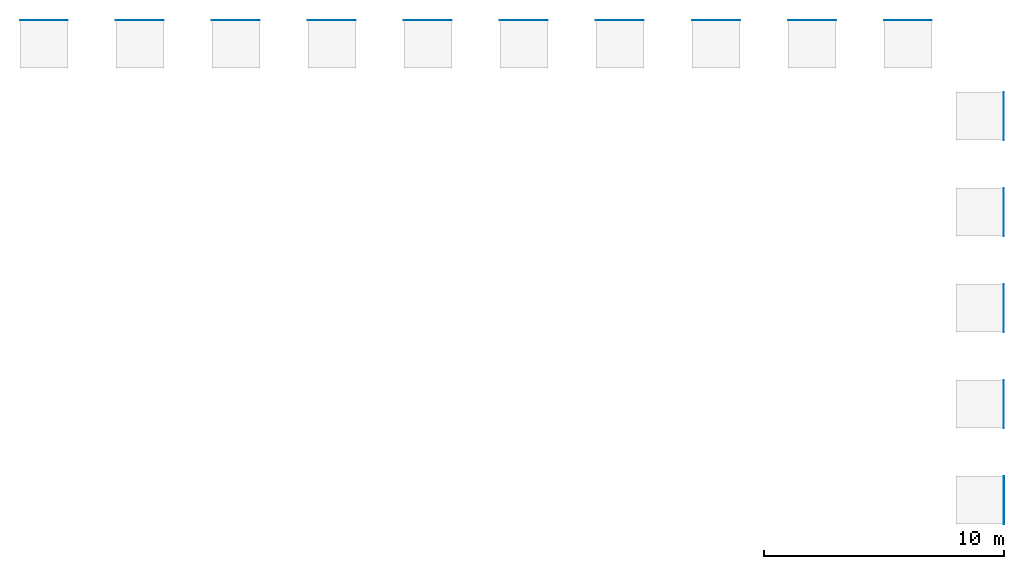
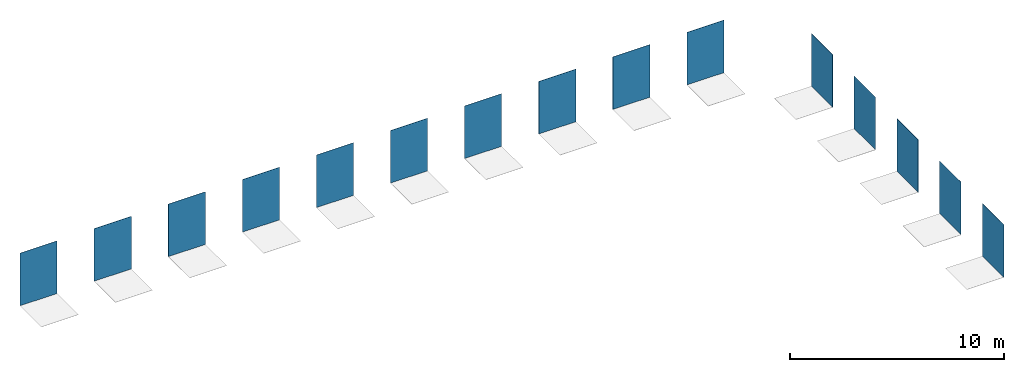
# One storey, part 1 of 2: 15 walls.
"""IFC2X3 building model written with IfcOpenShell, lengths in millimetres."""

import ifcopenshell
import ifcopenshell.guid

model = None  # the IFC model being written
_history = None  # IfcOwnerHistory: only IFC2X3 demands one
_inside = {}  # id of a spatial element -> (the spatial element, [elements in it])
_under = {}  # id of a project, library or spatial element -> (it, [spatial elements below it])
_declared = {}  # id of a project -> (the project, [libraries it declares])
_typed = {}  # id of a type object -> (the type object, [elements of that type])
_made_of = {}  # id of a material, layer set ... -> (it, [elements and type objects made of it])


def new_model(schema):
    """Start an empty IFC model of exactly this schema.

    Asked for "IFC4X3", IfcOpenShell would pick the latest addendum, in which some entities
    have other attributes; the version numbers below select the first issue.
    IFC2X3 requires an IfcOwnerHistory on every rooted entity: one is made here for all.
    """
    global model, _history
    if schema == "IFC4X3":
        model = ifcopenshell.file(schema_version=(4, 3, 0, 0))
    else:
        model = ifcopenshell.file(schema=schema)
    _inside.clear()
    _under.clear()
    _declared.clear()
    _typed.clear()
    _made_of.clear()
    _history = None
    if model.schema == "IFC2X3":
        org = make("IfcOrganization", Name="unknown")
        user = make(
            "IfcPersonAndOrganization",
            ThePerson=make("IfcPerson", FamilyName="unknown"),
            TheOrganization=org,
        )
        app = make(
            "IfcApplication",
            ApplicationDeveloper=org,
            Version="unknown",
            ApplicationFullName="unknown",
            ApplicationIdentifier="unknown",
        )
        _history = make(
            "IfcOwnerHistory",
            OwningUser=user,
            OwningApplication=app,
            ChangeAction="ADDED",
            CreationDate=0,
        )
    return model


def make(cls, **values):
    """One entity of the class cls with the attributes given. An attribute that is None is left unset."""
    return model.create_entity(
        cls, **{name: value for name, value in values.items() if value is not None}
    )


def entity(cls, *values):
    """Any entity or typed value of the class cls, its attributes in the order of the schema. None: left unset."""
    e = model.create_entity(cls)
    for i, value in enumerate(values):
        if value is not None:
            e[i] = value
    return e


def rooted(cls, **values):
    """An entity with a GlobalId (a new one), such as an element, a storey or a relation."""
    return make(cls, GlobalId=ifcopenshell.guid.new(), OwnerHistory=_history, **values)


def si_unit(unit_type, name, prefix=None):
    """IfcSIUnit, for example si_unit("LENGTHUNIT", "METRE", prefix="MILLI")."""
    return make("IfcSIUnit", UnitType=unit_type, Prefix=prefix, Name=name)


def converted_unit(unit_type, name, factor, base, dimensions=None, offset=None):
    """IfcConversionBasedUnit, such as the inch: factor (a typed value) times the base unit."""
    return make(
        "IfcConversionBasedUnit"
        if offset is None
        else "IfcConversionBasedUnitWithOffset",
        ConversionOffset=offset,
        Dimensions=None
        if dimensions is None
        else entity("IfcDimensionalExponents", *dimensions),
        UnitType=unit_type,
        Name=name,
        ConversionFactor=make(
            "IfcMeasureWithUnit", ValueComponent=factor, UnitComponent=base
        ),
    )


def derived_unit(unit_type, elements):
    """IfcDerivedUnit: a product of units, each with its exponent."""
    return make(
        "IfcDerivedUnit",
        Elements=[
            make("IfcDerivedUnitElement", Unit=unit, Exponent=power)
            for unit, power in elements
        ],
        UnitType=unit_type,
    )


def assignment(units):
    """IfcUnitAssignment: the units of a project."""
    return None if units is None else make("IfcUnitAssignment", Units=units)


def point(xyz):
    """IfcCartesianPoint."""
    return None if xyz is None else make("IfcCartesianPoint", Coordinates=xyz)


def direction(xyz):
    """IfcDirection."""
    return None if xyz is None else make("IfcDirection", DirectionRatios=xyz)


def frame(location, z_axis=None, x_axis=None):
    """IfcAxis2Placement3D, a coordinate frame: its origin and axes. An axis left out is left unset."""
    return make(
        "IfcAxis2Placement3D",
        Location=point(location),
        Axis=direction(z_axis),
        RefDirection=direction(x_axis),
    )


def frame_2d(location, x_axis=None):
    """IfcAxis2Placement2D, a coordinate frame in the plane: its origin and x axis."""
    return make(
        "IfcAxis2Placement2D", Location=point(location), RefDirection=direction(x_axis)
    )


def origin():
    """The frame at (0, 0, 0) with its axes left unset."""
    return frame((0.0, 0.0, 0.0))


def place(relative_to, where):
    """IfcLocalPlacement: puts the frame where relative to a parent placement (None: the world)."""
    return make(
        "IfcLocalPlacement", PlacementRelTo=relative_to, RelativePlacement=where
    )


def context(
    kind, dimensions, precision=None, world=None, true_north=None, identifier=None
):
    """IfcGeometricRepresentationContext, for example the 3D "Model" context."""
    return make(
        "IfcGeometricRepresentationContext",
        ContextIdentifier=identifier,
        ContextType=kind,
        CoordinateSpaceDimension=dimensions,
        Precision=precision,
        WorldCoordinateSystem=world,
        TrueNorth=true_north,
    )


def subcontext(parent, identifier, kind, view, scale=None):
    """IfcGeometricRepresentationSubContext, for example "Body" below "Model"."""
    return make(
        "IfcGeometricRepresentationSubContext",
        ContextIdentifier=identifier,
        ContextType=kind,
        ParentContext=parent,
        TargetScale=scale,
        TargetView=view,
    )


def project(units=None, contexts=None):
    """IfcProject with its units and contexts."""
    return rooted(
        "IfcProject",
        Name="project",
        RepresentationContexts=contexts,
        UnitsInContext=assignment(units),
    )


def spatial(cls, under=None, at=None, **own):
    """A site, building, storey or space (cls), placed at a placement, below another one or the project."""
    s = rooted(cls, ObjectPlacement=at, **own)
    if under is not None:
        _under.setdefault(under.id(), (under, []))[1].append(s)
    return s


def profile(cls, at=None, kind="AREA", **sizes):
    """A parametric profile (cls). Its sizes go by their IFC names, for example OverallWidth=200.0."""
    return make(cls, ProfileType=kind, Position=at, **sizes)


def rectangle(**sizes):
    """IfcRectangleProfileDef."""
    return profile("IfcRectangleProfileDef", **sizes)


def extrude(swept, where, along, depth):
    """IfcExtrudedAreaSolid: the profile swept, set in the frame where, extruded along a direction by depth."""
    return make(
        "IfcExtrudedAreaSolid",
        SweptArea=swept,
        Position=where,
        ExtrudedDirection=direction(along),
        Depth=depth,
    )


def shape(context_of_items, identifier, shape_type, items):
    """IfcShapeRepresentation: the items that make up one representation, for example the "Body"."""
    return make(
        "IfcShapeRepresentation",
        ContextOfItems=context_of_items,
        RepresentationIdentifier=identifier,
        RepresentationType=shape_type,
        Items=items,
    )


def material(Name=None, Category=None):
    """IfcMaterial."""
    return make("IfcMaterial", Name=Name, Category=Category)


def layer(
    of_material, thickness, ventilated=None, Name=None, Category=None, Priority=None
):
    """IfcMaterialLayer: one layer of a wall or slab, of a material (None: an air gap)."""
    return make(
        "IfcMaterialLayer",
        Material=of_material,
        LayerThickness=thickness,
        IsVentilated=ventilated,
        Name=Name,
        Category=Category,
        Priority=Priority,
    )


def layer_set(layers, Name=None):
    """IfcMaterialLayerSet."""
    return make("IfcMaterialLayerSet", MaterialLayers=layers, LayerSetName=Name)


def layer_usage(for_layer_set, set_direction, sense, offset, extent=None):
    """IfcMaterialLayerSetUsage: how a layer set lies in its element."""
    return make(
        "IfcMaterialLayerSetUsage",
        ForLayerSet=for_layer_set,
        LayerSetDirection=set_direction,
        DirectionSense=sense,
        OffsetFromReferenceLine=offset,
        ReferenceExtent=extent,
    )


def made_of(thing, what):
    """Note that an element or type object is made of a material, layer set ...; save() writes the relation."""
    if what is not None:
        _made_of.setdefault(what.id(), (what, []))[1].append(thing)
    return thing


def type_object(cls, material=None, **own):
    """A type object (cls), such as IfcWallType, which elements share."""
    return made_of(rooted(cls, **own), material)


def element(
    cls,
    number,
    at=None,
    inside=None,
    cuts=None,
    type_object=None,
    material=None,
    context=None,
    identifier="Body",
    shape_type=None,
    held_by="IfcProductDefinitionShape",
    body=None,
    shapes=None,
    **own,
):
    """One element of the class cls, such as IfcWall. Its Tag is "e" and its number.

    at: its placement. inside: the storey or other place that contains it. cuts: it is an
    opening in that element (IfcRelVoidsElement). A single representation is given by context,
    identifier, shape_type and body (its items); several are given by shapes. held_by: the class
    of the entity that holds the representations. save() writes the other relations.
    """
    e = rooted(cls, Tag="e%d" % number, ObjectPlacement=at, **own)
    if body is not None:
        shapes = [shape(context, identifier, shape_type, body)]
    if shapes is not None:
        e.Representation = make(held_by, Representations=shapes)
    if inside is not None:
        _inside.setdefault(inside.id(), (inside, []))[1].append(e)
    if cuts is not None:
        rooted(
            "IfcRelVoidsElement", RelatingBuildingElement=cuts, RelatedOpeningElement=e
        )
    if type_object is not None:
        _typed.setdefault(type_object.id(), (type_object, []))[1].append(e)
    return made_of(e, material)


def aggregate(whole, parts):
    """IfcRelAggregates: a whole, such as a stair, and the parts it consists of."""
    return rooted("IfcRelAggregates", RelatingObject=whole, RelatedObjects=parts)


def save(model, path):
    """Write the relations noted so far, then the file.

    IfcRelAggregates (storeys below a building ...), IfcRelContainedInSpatialStructure (elements
    in a storey), IfcRelDefinesByType, IfcRelAssociatesMaterial and IfcRelDeclares: one each for
    every whole, place, type object, material and project.
    """
    for whole, parts in _under.values():
        aggregate(whole, parts)
    for where, things in _inside.values():
        rooted(
            "IfcRelContainedInSpatialStructure",
            RelatedElements=things,
            RelatingStructure=where,
        )
    for kind, things in _typed.values():
        rooted("IfcRelDefinesByType", RelatedObjects=things, RelatingType=kind)
    for what, things in _made_of.values():
        rooted("IfcRelAssociatesMaterial", RelatedObjects=things, RelatingMaterial=what)
    for by, libraries in _declared.values():
        rooted("IfcRelDeclares", RelatingContext=by, RelatedDefinitions=libraries)
    model.write(path)


model = new_model("IFC2X3")

# Units and contexts
model_context = context("Model", 3, precision=0.01, world=origin(), true_north=direction((6.12303176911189e-17, 1.0)))
body_context = subcontext(model_context, "Body", "Model", "MODEL_VIEW")
ifc_project = project(units=[si_unit("LENGTHUNIT", "METRE", prefix="MILLI"), si_unit("AREAUNIT", "SQUARE_METRE"), si_unit("VOLUMEUNIT", "CUBIC_METRE"), converted_unit("PLANEANGLEUNIT", "DEGREE", entity("IfcRatioMeasure", 0.0174532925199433), si_unit("PLANEANGLEUNIT", "RADIAN"), dimensions=[0, 0, 0, 0, 0, 0, 0]), si_unit("MASSUNIT", "GRAM", prefix="KILO"), derived_unit("MASSDENSITYUNIT", [(si_unit("MASSUNIT", "GRAM", prefix="KILO"), 1), (si_unit("LENGTHUNIT", "METRE"), -3)]), si_unit("TIMEUNIT", "SECOND"), si_unit("FREQUENCYUNIT", "HERTZ"), si_unit("THERMODYNAMICTEMPERATUREUNIT", "DEGREE_CELSIUS"), derived_unit("THERMALTRANSMITTANCEUNIT", [(si_unit("MASSUNIT", "GRAM", prefix="KILO"), 1), (si_unit("THERMODYNAMICTEMPERATUREUNIT", "KELVIN"), -1), (si_unit("TIMEUNIT", "SECOND"), -3)]), derived_unit("VOLUMETRICFLOWRATEUNIT", [(si_unit("LENGTHUNIT", "METRE"), 3), (si_unit("TIMEUNIT", "SECOND"), -1)]), si_unit("ELECTRICCURRENTUNIT", "AMPERE"), si_unit("ELECTRICVOLTAGEUNIT", "VOLT"), si_unit("POWERUNIT", "WATT"), si_unit("FORCEUNIT", "NEWTON", prefix="KILO"), si_unit("ILLUMINANCEUNIT", "LUX"), si_unit("LUMINOUSFLUXUNIT", "LUMEN"), si_unit("LUMINOUSINTENSITYUNIT", "CANDELA"), derived_unit("USERDEFINED", [(si_unit("MASSUNIT", "GRAM", prefix="KILO"), -1), (si_unit("LENGTHUNIT", "METRE"), -2), (si_unit("TIMEUNIT", "SECOND"), 3), (si_unit("LUMINOUSFLUXUNIT", "LUMEN"), 1)]), derived_unit("LINEARVELOCITYUNIT", [(si_unit("LENGTHUNIT", "METRE"), 1), (si_unit("TIMEUNIT", "SECOND"), -1)]), si_unit("PRESSUREUNIT", "PASCAL"), derived_unit("USERDEFINED", [(si_unit("LENGTHUNIT", "METRE"), -2), (si_unit("MASSUNIT", "GRAM", prefix="KILO"), 1), (si_unit("TIMEUNIT", "SECOND"), -2)])], contexts=[model_context])

# Site, building, storey
site_placement = place(None, origin())
site = spatial("IfcSite", under=ifc_project, at=site_placement, Name="Default", CompositionType="ELEMENT")
building_placement = place(site_placement, origin())
building = spatial("IfcBuilding", under=site, at=building_placement, CompositionType="ELEMENT")
storey_placement = place(building_placement, origin())
storey = spatial("IfcBuildingStorey", under=building, at=storey_placement, Name="Level 1", CompositionType="ELEMENT", Elevation=0.0)

# Walls
ifc_material_1 = material(Name="PGR_Porcelanosa_CeramicTiles_Ascot_Teca-294x1200mm-100161123")
ifc_layer_1 = layer(ifc_material_1, 12.0)
ifc_layer_set_1 = layer_set([ifc_layer_1], Name="Basic Wall:PGR_Porcelanosa_CeramicTiles_Ascot_Teca-294x1200mm-100161123")
ifc_layer_usage_1 = layer_usage(ifc_layer_set_1, "AXIS2", "POSITIVE", -6.0)
wall_type_1 = type_object("IfcWallType", Name="Basic Wall:PGR_Porcelanosa_CeramicTiles_Ascot_Teca-294x1200mm-100161123", PredefinedType="STANDARD", material=ifc_layer_set_1)
wall_1_placement = place(storey_placement, frame((3521.07742659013, -2501.98267476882, 0.0), z_axis=(0.0, 0.0, 1.0), x_axis=(0.0, -1.0, 0.0)))
element("IfcWallStandardCase", 1, at=wall_1_placement, inside=storey, type_object=wall_type_1, material=ifc_layer_usage_1, Name="Basic Wall:PGR_Porcelanosa_CeramicTiles_Ascot_Teca-294x1200mm-100161123", ObjectType="Basic Wall:PGR_Porcelanosa_CeramicTiles_Ascot_Teca-294x1200mm-100161123", context=body_context, shape_type="SweptSolid", body=[
    extrude(rectangle(XDim=2000.0, YDim=12.0000000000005, at=frame_2d((1000.0, 7.54951656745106e-15), x_axis=(-1.0, 0.0))), origin(), (0.0, 0.0, 1.0), 3000.00000000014),
])
ifc_material_2 = material(Name="PGR_Porcelanosa_CeramicTiles_Ascot_Olivo-294x1200mm-100161121")
ifc_layer_2 = layer(ifc_material_2, 12.0)
ifc_layer_set_2 = layer_set([ifc_layer_2], Name="Basic Wall:PGR_Porcelanosa_CeramicTiles_Ascot_Olivo-294x1200mm-100161121")
ifc_layer_usage_2 = layer_usage(ifc_layer_set_2, "AXIS2", "POSITIVE", -6.0)
wall_type_2 = type_object("IfcWallType", Name="Basic Wall:PGR_Porcelanosa_CeramicTiles_Ascot_Olivo-294x1200mm-100161121", PredefinedType="STANDARD", material=ifc_layer_set_2)
wall_2_placement = place(storey_placement, frame((3521.07742659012, -6501.98267476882, 0.0), z_axis=(0.0, 0.0, 1.0), x_axis=(0.0, -1.0, 0.0)))
element("IfcWallStandardCase", 2, at=wall_2_placement, inside=storey, type_object=wall_type_2, material=ifc_layer_usage_2, Name="Basic Wall:PGR_Porcelanosa_CeramicTiles_Ascot_Olivo-294x1200mm-100161121", ObjectType="Basic Wall:PGR_Porcelanosa_CeramicTiles_Ascot_Olivo-294x1200mm-100161121", context=body_context, shape_type="SweptSolid", body=[
    extrude(rectangle(XDim=2000.0, YDim=12.0000000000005, at=frame_2d((1000.0, 7.54951656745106e-15), x_axis=(-1.0, 0.0))), origin(), (0.0, 0.0, 1.0), 3000.00000000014),
])
ifc_material_3 = material(Name="PGR_Porcelanosa_CeramicTiles_Ascot_Teca-193x1200mm-100161038")
ifc_layer_3 = layer(ifc_material_3, 12.0)
ifc_layer_set_3 = layer_set([ifc_layer_3], Name="Basic Wall:PGR_Porcelanosa_CeramicTiles_Ascot_Teca-193x1200mm-100161038")
ifc_layer_usage_3 = layer_usage(ifc_layer_set_3, "AXIS2", "POSITIVE", -6.0)
wall_type_3 = type_object("IfcWallType", Name="Basic Wall:PGR_Porcelanosa_CeramicTiles_Ascot_Teca-193x1200mm-100161038", PredefinedType="STANDARD", material=ifc_layer_set_3)
wall_3_placement = place(storey_placement, frame((-5472.92257340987, 492.017325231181, 0.0)))
element("IfcWallStandardCase", 3, at=wall_3_placement, inside=storey, type_object=wall_type_3, material=ifc_layer_usage_3, Name="Basic Wall:PGR_Porcelanosa_CeramicTiles_Ascot_Teca-193x1200mm-100161038", ObjectType="Basic Wall:PGR_Porcelanosa_CeramicTiles_Ascot_Teca-193x1200mm-100161038", context=body_context, shape_type="SweptSolid", body=[
    extrude(rectangle(XDim=2000.0, YDim=12.0, at=frame_2d((1000.0, -6.66133814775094e-15), x_axis=(-1.0, 0.0))), origin(), (0.0, 0.0, 1.0), 3000.00000000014),
])
ifc_material_4 = material(Name="PGR_Porcelanosa_CeramicTiles_Ascot_Olivo-193x1200mm-100161027")
ifc_layer_4 = layer(ifc_material_4, 12.0)
ifc_layer_set_4 = layer_set([ifc_layer_4], Name="Basic Wall:PGR_Porcelanosa_CeramicTiles_Ascot_Olivo-193x1200mm-100161027")
ifc_layer_usage_4 = layer_usage(ifc_layer_set_4, "AXIS2", "POSITIVE", -6.0)
wall_type_4 = type_object("IfcWallType", Name="Basic Wall:PGR_Porcelanosa_CeramicTiles_Ascot_Olivo-193x1200mm-100161027", PredefinedType="STANDARD", material=ifc_layer_set_4)
wall_4_placement = place(storey_placement, frame((-1472.92257340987, 492.017325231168, 0.0)))
element("IfcWallStandardCase", 4, at=wall_4_placement, inside=storey, type_object=wall_type_4, material=ifc_layer_usage_4, Name="Basic Wall:PGR_Porcelanosa_CeramicTiles_Ascot_Olivo-193x1200mm-100161027", ObjectType="Basic Wall:PGR_Porcelanosa_CeramicTiles_Ascot_Olivo-193x1200mm-100161027", context=body_context, shape_type="SweptSolid", body=[
    extrude(rectangle(XDim=2000.0, YDim=12.0, at=frame_2d((1000.0, -6.66133814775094e-15), x_axis=(-1.0, 0.0))), origin(), (0.0, 0.0, 1.0), 3000.00000000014),
])
ifc_material_5 = material(Name="PGR_Porcelanosa_CeramicTiles_Ascot_Grey-294x1200mm-100161120")
ifc_layer_5 = layer(ifc_material_5, 12.0)
ifc_layer_set_5 = layer_set([ifc_layer_5], Name="Basic Wall:PGR_Porcelanosa_CeramicTiles_Ascot_Grey-294x1200mm-100161120")
ifc_layer_usage_5 = layer_usage(ifc_layer_set_5, "AXIS2", "POSITIVE", -6.0)
wall_type_5 = type_object("IfcWallType", Name="Basic Wall:PGR_Porcelanosa_CeramicTiles_Ascot_Grey-294x1200mm-100161120", PredefinedType="STANDARD", material=ifc_layer_set_5)
wall_5_placement = place(storey_placement, frame((3521.07742659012, -10501.9826747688, 0.0), z_axis=(0.0, 0.0, 1.0), x_axis=(0.0, -1.0, 0.0)))
element("IfcWallStandardCase", 5, at=wall_5_placement, inside=storey, type_object=wall_type_5, material=ifc_layer_usage_5, Name="Basic Wall:PGR_Porcelanosa_CeramicTiles_Ascot_Grey-294x1200mm-100161120", ObjectType="Basic Wall:PGR_Porcelanosa_CeramicTiles_Ascot_Grey-294x1200mm-100161120", context=body_context, shape_type="SweptSolid", body=[
    extrude(rectangle(XDim=2000.0, YDim=12.0000000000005, at=frame_2d((1000.0, 7.54951656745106e-15), x_axis=(-1.0, 0.0))), origin(), (0.0, 0.0, 1.0), 3000.00000000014),
])
ifc_material_6 = material(Name="PGR_Porcelanosa_CeramicTiles_Ascot_Grey-193x1200mm-100161025")
ifc_layer_6 = layer(ifc_material_6, 12.0)
ifc_layer_set_6 = layer_set([ifc_layer_6], Name="Basic Wall:PGR_Porcelanosa_CeramicTiles_Ascot_Grey-193x1200mm-100161025")
ifc_layer_usage_6 = layer_usage(ifc_layer_set_6, "AXIS2", "POSITIVE", -6.0)
wall_type_6 = type_object("IfcWallType", Name="Basic Wall:PGR_Porcelanosa_CeramicTiles_Ascot_Grey-193x1200mm-100161025", PredefinedType="STANDARD", material=ifc_layer_set_6)
wall_6_placement = place(storey_placement, frame((-9472.92257340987, 492.017325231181, 0.0)))
element("IfcWallStandardCase", 6, at=wall_6_placement, inside=storey, type_object=wall_type_6, material=ifc_layer_usage_6, Name="Basic Wall:PGR_Porcelanosa_CeramicTiles_Ascot_Grey-193x1200mm-100161025", ObjectType="Basic Wall:PGR_Porcelanosa_CeramicTiles_Ascot_Grey-193x1200mm-100161025", context=body_context, shape_type="SweptSolid", body=[
    extrude(rectangle(XDim=2000.0, YDim=12.0, at=frame_2d((1000.0, -6.66133814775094e-15), x_axis=(-1.0, 0.0))), origin(), (0.0, 0.0, 1.0), 3000.00000000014),
])
ifc_material_7 = material(Name="PGR_Porcelanosa_CeramicTiles_Ascot_Teca_Ant.-193x1200mm-100161039")
ifc_layer_7 = layer(ifc_material_7, 12.0)
ifc_layer_set_7 = layer_set([ifc_layer_7], Name="Basic Wall:PGR_Porcelanosa_CeramicTiles_Ascot_Teca_Ant.-193x1200mm-100161039")
ifc_layer_usage_7 = layer_usage(ifc_layer_set_7, "AXIS2", "POSITIVE", -6.0)
wall_type_7 = type_object("IfcWallType", Name="Basic Wall:PGR_Porcelanosa_CeramicTiles_Ascot_Teca_Ant.-193x1200mm-100161039", PredefinedType="STANDARD", material=ifc_layer_set_7)
wall_7_placement = place(storey_placement, frame((-17472.9225734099, 492.01732523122, 0.0)))
element("IfcWallStandardCase", 7, at=wall_7_placement, inside=storey, type_object=wall_type_7, material=ifc_layer_usage_7, Name="Basic Wall:PGR_Porcelanosa_CeramicTiles_Ascot_Teca_Ant.-193x1200mm-100161039", ObjectType="Basic Wall:PGR_Porcelanosa_CeramicTiles_Ascot_Teca_Ant.-193x1200mm-100161039", context=body_context, shape_type="SweptSolid", body=[
    extrude(rectangle(XDim=2000.0, YDim=12.0, at=frame_2d((1000.0, -6.66133814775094e-15), x_axis=(-1.0, 0.0))), origin(), (0.0, 0.0, 1.0), 3000.00000000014),
])
ifc_material_8 = material(Name="PGR_Porcelanosa_CeramicTiles_Ascot_Grey_Ant.-193x1200mm-100161026")
ifc_layer_8 = layer(ifc_material_8, 12.0)
ifc_layer_set_8 = layer_set([ifc_layer_8], Name="Basic Wall:PGR_Porcelanosa_CeramicTiles_Ascot_Grey_Ant.-193x1200mm-100161026")
ifc_layer_usage_8 = layer_usage(ifc_layer_set_8, "AXIS2", "POSITIVE", -6.0)
wall_type_8 = type_object("IfcWallType", Name="Basic Wall:PGR_Porcelanosa_CeramicTiles_Ascot_Grey_Ant.-193x1200mm-100161026", PredefinedType="STANDARD", material=ifc_layer_set_8)
wall_8_placement = place(storey_placement, frame((-13472.9225734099, 492.017325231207, 0.0)))
element("IfcWallStandardCase", 8, at=wall_8_placement, inside=storey, type_object=wall_type_8, material=ifc_layer_usage_8, Name="Basic Wall:PGR_Porcelanosa_CeramicTiles_Ascot_Grey_Ant.-193x1200mm-100161026", ObjectType="Basic Wall:PGR_Porcelanosa_CeramicTiles_Ascot_Grey_Ant.-193x1200mm-100161026", context=body_context, shape_type="SweptSolid", body=[
    extrude(rectangle(XDim=2000.0, YDim=12.0, at=frame_2d((1000.0, -6.66133814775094e-15), x_axis=(-1.0, 0.0))), origin(), (0.0, 0.0, 1.0), 3000.00000000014),
])
ifc_material_9 = material(Name="PGR_Porcelanosa_CeramicTiles_Ascot_Olivo_Ant.-193x1200mm-100161028")
ifc_layer_9 = layer(ifc_material_9, 12.0)
ifc_layer_set_9 = layer_set([ifc_layer_9], Name="Basic Wall:PGR_Porcelanosa_CeramicTiles_Ascot_Olivo_Ant.-193x1200mm-100161028")
ifc_layer_usage_9 = layer_usage(ifc_layer_set_9, "AXIS2", "POSITIVE", -6.0)
wall_type_9 = type_object("IfcWallType", Name="Basic Wall:PGR_Porcelanosa_CeramicTiles_Ascot_Olivo_Ant.-193x1200mm-100161028", PredefinedType="STANDARD", material=ifc_layer_set_9)
wall_9_placement = place(storey_placement, frame((-21472.9225734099, 492.01732523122, 0.0)))
element("IfcWallStandardCase", 9, at=wall_9_placement, inside=storey, type_object=wall_type_9, material=ifc_layer_usage_9, Name="Basic Wall:PGR_Porcelanosa_CeramicTiles_Ascot_Olivo_Ant.-193x1200mm-100161028", ObjectType="Basic Wall:PGR_Porcelanosa_CeramicTiles_Ascot_Olivo_Ant.-193x1200mm-100161028", context=body_context, shape_type="SweptSolid", body=[
    extrude(rectangle(XDim=2000.0, YDim=12.0, at=frame_2d((1000.0, -6.66133814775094e-15), x_axis=(-1.0, 0.0))), origin(), (0.0, 0.0, 1.0), 3000.00000000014),
])
ifc_material_10 = material(Name="PGR_Porcelanosa_CeramicTiles_Ascot_Arce-193x1200mm-100161043")
ifc_layer_10 = layer(ifc_material_10, 11.0)
ifc_layer_set_10 = layer_set([ifc_layer_10], Name="Basic Wall:PGR_Porcelanosa_CeramicTiles_Ascot_Arce-193x1200mm-100161043")
ifc_layer_usage_10 = layer_usage(ifc_layer_set_10, "AXIS2", "POSITIVE", -5.5)
wall_type_10 = type_object("IfcWallType", Name="Basic Wall:PGR_Porcelanosa_CeramicTiles_Ascot_Arce-193x1200mm-100161043", PredefinedType="STANDARD", material=ifc_layer_set_10)
wall_10_placement = place(storey_placement, frame((-37472.9225734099, 492.517325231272, 0.0)))
element("IfcWallStandardCase", 10, at=wall_10_placement, inside=storey, type_object=wall_type_10, material=ifc_layer_usage_10, Name="Basic Wall:PGR_Porcelanosa_CeramicTiles_Ascot_Arce-193x1200mm-100161043", ObjectType="Basic Wall:PGR_Porcelanosa_CeramicTiles_Ascot_Arce-193x1200mm-100161043", context=body_context, shape_type="SweptSolid", body=[
    extrude(rectangle(XDim=2000.0, YDim=10.9999999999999, at=frame_2d((1000.0, 1.15463194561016e-14), x_axis=(-1.0, 0.0))), origin(), (0.0, 0.0, 1.0), 3000.00000000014),
])
ifc_material_11 = material(Name="PGR_Porcelanosa_CeramicTiles_Ascot_Arce-294x1200mm-100161044")
ifc_layer_11 = layer(ifc_material_11, 11.0)
ifc_layer_set_11 = layer_set([ifc_layer_11], Name="Basic Wall:PGR_Porcelanosa_CeramicTiles_Ascot_Arce-294x1200mm-100161044")
ifc_layer_usage_11 = layer_usage(ifc_layer_set_11, "AXIS2", "POSITIVE", -5.5)
wall_type_11 = type_object("IfcWallType", Name="Basic Wall:PGR_Porcelanosa_CeramicTiles_Ascot_Arce-294x1200mm-100161044", PredefinedType="STANDARD", material=ifc_layer_set_11)
wall_11_placement = place(storey_placement, frame((3521.57742659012, -14501.9826747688, 0.0), z_axis=(0.0, 0.0, 1.0), x_axis=(0.0, -1.0, 0.0)))
element("IfcWallStandardCase", 11, at=wall_11_placement, inside=storey, type_object=wall_type_11, material=ifc_layer_usage_11, Name="Basic Wall:PGR_Porcelanosa_CeramicTiles_Ascot_Arce-294x1200mm-100161044", ObjectType="Basic Wall:PGR_Porcelanosa_CeramicTiles_Ascot_Arce-294x1200mm-100161044", context=body_context, shape_type="SweptSolid", body=[
    extrude(rectangle(XDim=2000.0, YDim=10.9999999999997, at=frame_2d((1000.0, 7.54951656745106e-15), x_axis=(-1.0, 0.0))), origin(), (0.0, 0.0, 1.0), 3000.00000000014),
])
ifc_material_12 = material(Name="PGR_Porcelanosa_CeramicTiles_Ascot_Arce_Ant.-193x1200mm-100161045")
ifc_layer_12 = layer(ifc_material_12, 11.0)
ifc_layer_set_12 = layer_set([ifc_layer_12], Name="Basic Wall:PGR_Porcelanosa_CeramicTiles_Ascot_Arce_Ant.-193x1200mm-100161045")
ifc_layer_usage_12 = layer_usage(ifc_layer_set_12, "AXIS2", "POSITIVE", -5.5)
wall_type_12 = type_object("IfcWallType", Name="Basic Wall:PGR_Porcelanosa_CeramicTiles_Ascot_Arce_Ant.-193x1200mm-100161045", PredefinedType="STANDARD", material=ifc_layer_set_12)
wall_12_placement = place(storey_placement, frame((-33472.9225734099, 492.517325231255, 0.0)))
element("IfcWallStandardCase", 12, at=wall_12_placement, inside=storey, type_object=wall_type_12, material=ifc_layer_usage_12, Name="Basic Wall:PGR_Porcelanosa_CeramicTiles_Ascot_Arce_Ant.-193x1200mm-100161045", ObjectType="Basic Wall:PGR_Porcelanosa_CeramicTiles_Ascot_Arce_Ant.-193x1200mm-100161045", context=body_context, shape_type="SweptSolid", body=[
    extrude(rectangle(XDim=2000.0, YDim=10.9999999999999, at=frame_2d((1000.0, 1.15463194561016e-14), x_axis=(-1.0, 0.0))), origin(), (0.0, 0.0, 1.0), 3000.00000000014),
])
ifc_material_13 = material(Name="PGR_Porcelanosa_CeramicTiles_Ascot_Roble-193x1200mm-100161029")
ifc_layer_13 = layer(ifc_material_13, 11.0)
ifc_layer_set_13 = layer_set([ifc_layer_13], Name="Basic Wall:PGR_Porcelanosa_CeramicTiles_Ascot_Roble-193x1200mm-100161029")
ifc_layer_usage_13 = layer_usage(ifc_layer_set_13, "AXIS2", "POSITIVE", -5.5)
wall_type_13 = type_object("IfcWallType", Name="Basic Wall:PGR_Porcelanosa_CeramicTiles_Ascot_Roble-193x1200mm-100161029", PredefinedType="STANDARD", material=ifc_layer_set_13)
wall_13_placement = place(storey_placement, frame((-29472.9225734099, 492.517325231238, 0.0)))
element("IfcWallStandardCase", 13, at=wall_13_placement, inside=storey, type_object=wall_type_13, material=ifc_layer_usage_13, Name="Basic Wall:PGR_Porcelanosa_CeramicTiles_Ascot_Roble-193x1200mm-100161029", ObjectType="Basic Wall:PGR_Porcelanosa_CeramicTiles_Ascot_Roble-193x1200mm-100161029", context=body_context, shape_type="SweptSolid", body=[
    extrude(rectangle(XDim=2000.0, YDim=10.9999999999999, at=frame_2d((1000.0, 1.15463194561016e-14), x_axis=(-1.0, 0.0))), origin(), (0.0, 0.0, 1.0), 3000.00000000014),
])
ifc_material_14 = material(Name="PGR_Porcelanosa_CeramicTiles_Ascot_Roble-294x1200mm-100161122")
ifc_layer_14 = layer(ifc_material_14, 11.0)
ifc_layer_set_14 = layer_set([ifc_layer_14], Name="Basic Wall:PGR_Porcelanosa_CeramicTiles_Ascot_Roble-294x1200mm-100161122")
ifc_layer_usage_14 = layer_usage(ifc_layer_set_14, "AXIS2", "POSITIVE", -5.5)
wall_type_14 = type_object("IfcWallType", Name="Basic Wall:PGR_Porcelanosa_CeramicTiles_Ascot_Roble-294x1200mm-100161122", PredefinedType="STANDARD", material=ifc_layer_set_14)
wall_14_placement = place(storey_placement, frame((3521.57742659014, -18501.9826747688, 0.0), z_axis=(0.0, 0.0, 1.0), x_axis=(0.0, -1.0, 0.0)))
element("IfcWallStandardCase", 14, at=wall_14_placement, inside=storey, type_object=wall_type_14, material=ifc_layer_usage_14, Name="Basic Wall:PGR_Porcelanosa_CeramicTiles_Ascot_Roble-294x1200mm-100161122", ObjectType="Basic Wall:PGR_Porcelanosa_CeramicTiles_Ascot_Roble-294x1200mm-100161122", context=body_context, shape_type="SweptSolid", body=[
    extrude(rectangle(XDim=2000.0, YDim=10.9999999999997, at=frame_2d((1000.0, 7.54951656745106e-15), x_axis=(-1.0, 0.0))), origin(), (0.0, 0.0, 1.0), 3000.00000000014),
])
ifc_material_15 = material(Name="PGR_Porcelanosa_CeramicTiles_Ascot_Roble_Ant.-193x1200mm-100161037")
ifc_layer_15 = layer(ifc_material_15, 11.0)
ifc_layer_set_15 = layer_set([ifc_layer_15], Name="Basic Wall:PGR_Porcelanosa_CeramicTiles_Ascot_Roble_Ant.-193x1200mm-100161037")
ifc_layer_usage_15 = layer_usage(ifc_layer_set_15, "AXIS2", "POSITIVE", -5.5)
wall_type_15 = type_object("IfcWallType", Name="Basic Wall:PGR_Porcelanosa_CeramicTiles_Ascot_Roble_Ant.-193x1200mm-100161037", PredefinedType="STANDARD", material=ifc_layer_set_15)
wall_15_placement = place(storey_placement, frame((-25472.9225734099, 492.517325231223, 0.0)))
element("IfcWallStandardCase", 15, at=wall_15_placement, inside=storey, type_object=wall_type_15, material=ifc_layer_usage_15, Name="Basic Wall:PGR_Porcelanosa_CeramicTiles_Ascot_Roble_Ant.-193x1200mm-100161037", ObjectType="Basic Wall:PGR_Porcelanosa_CeramicTiles_Ascot_Roble_Ant.-193x1200mm-100161037", context=body_context, shape_type="SweptSolid", body=[
    extrude(rectangle(XDim=2000.0, YDim=10.9999999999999, at=frame_2d((1000.0, 1.15463194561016e-14), x_axis=(-1.0, 0.0))), origin(), (0.0, 0.0, 1.0), 3000.00000000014),
])

save(model, "model.ifc")
